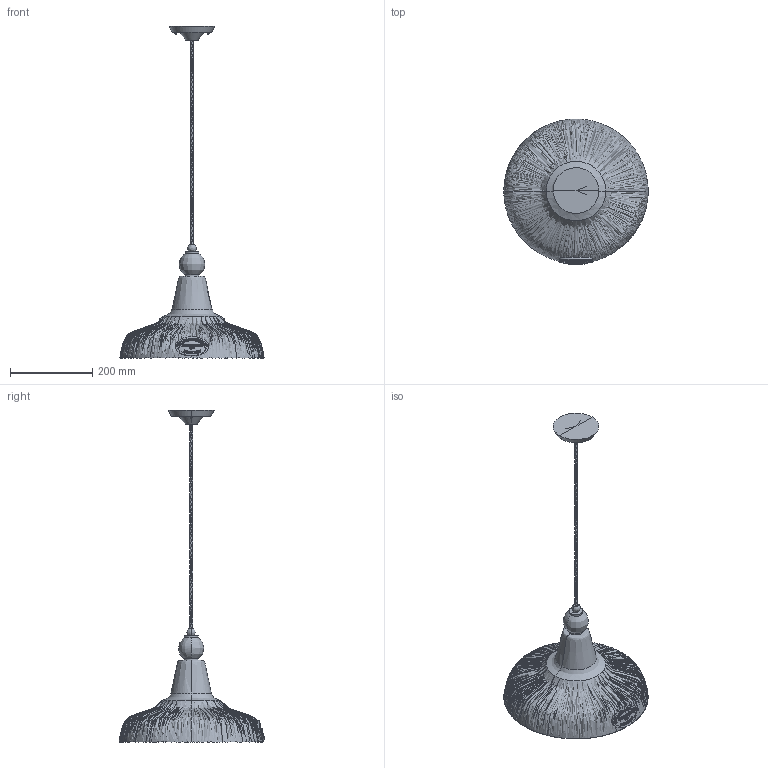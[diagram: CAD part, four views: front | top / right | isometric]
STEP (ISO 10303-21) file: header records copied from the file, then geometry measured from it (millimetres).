
FILE_DESCRIPTION(/* description */ (''),/* implementation_level */ '2;1');
FILE_NAME(/* name */ 'c1600 grunge',/* time_stamp */ '2023-07-21T20:35:32+02:00',/* author */ (''),/* organization */ (''),/* preprocessor_version */ 'ST-DEVELOPER v16.5',/* originating_system */ '',/* authorisation */ '');
FILE_SCHEMA (('CONFIG_CONTROL_DESIGN'));
Products named in the file (1): Document
Bounding box: 349.74 x 353.84 x 805.04 mm (x, y, z)
Volume: 4805722.5 mm3; surface area: 451933.6 mm2
Topology: 17 solids, 20 shells, 1889 faces, 4894 edges, 3077 vertices
Faces by surface type: bspline 1427, plane 339, cylinder 123
Entity records: 139111 total; most frequent: CARTESIAN_POINT 109645, ORIENTED_EDGE 9692, EDGE_CURVE 4850, B_SPLINE_CURVE_WITH_KNOTS 3824, VERTEX_POINT 3064, EDGE_LOOP 1978, ADVANCED_FACE 1889, FACE_OUTER_BOUND 1889
